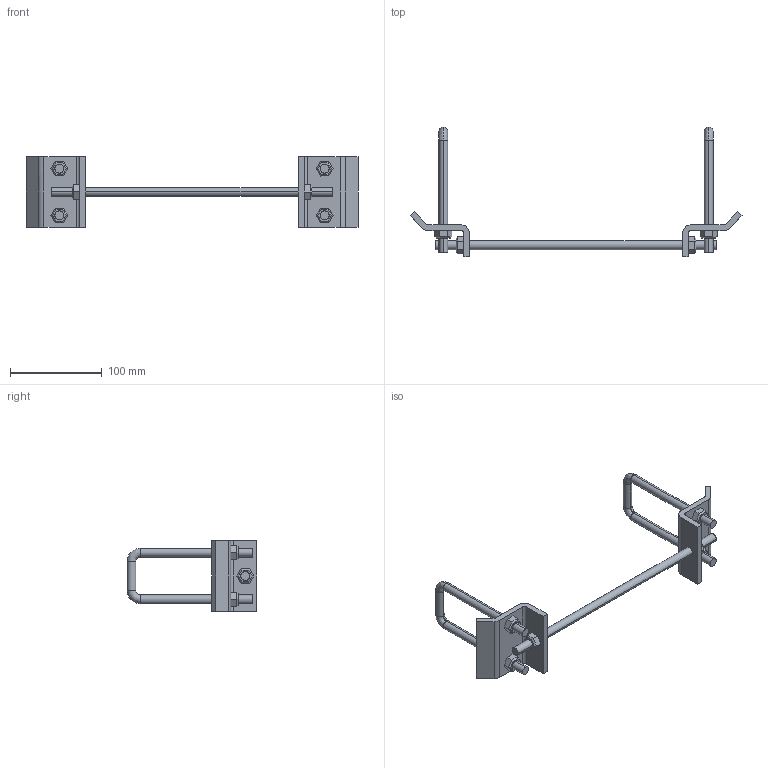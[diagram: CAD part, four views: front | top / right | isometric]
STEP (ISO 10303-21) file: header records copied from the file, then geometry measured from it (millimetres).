
FILE_DESCRIPTION(('TurboCAD Mac Pro'),'Build 980');
FILE_NAME('P2868A-12.stp',' ',(''),(''),'ACIS Interop','IMSI','TurboCAD Mac Pro BY IMSI, INCORPORATED');
FILE_SCHEMA(('automotive_design'));
Length unit declared in the file: inch
Products named in the file (11): 1; 2; 3; 4; 5; 6; 7; 8; 9; 10; 11
Bounding box: 361.4 x 141.31 x 76.2 mm (x, y, z)
Volume: 160746.8 mm3; surface area: 66949.3 mm2
Topology: 11 solids, 11 shells, 176 faces, 410 edges, 256 vertices
Faces by surface type: plane 110, bspline 40, cylinder 26
Entity records: 9060 total; most frequent: CARTESIAN_POINT 1837, ORIENTED_EDGE 820, DIRECTION 692, STYLED_ITEM 533, PRESENTATION_STYLE_ASSIGNMENT 533, COLOUR_RGB 533, EDGE_CURVE 410, CURVE_STYLE 346
